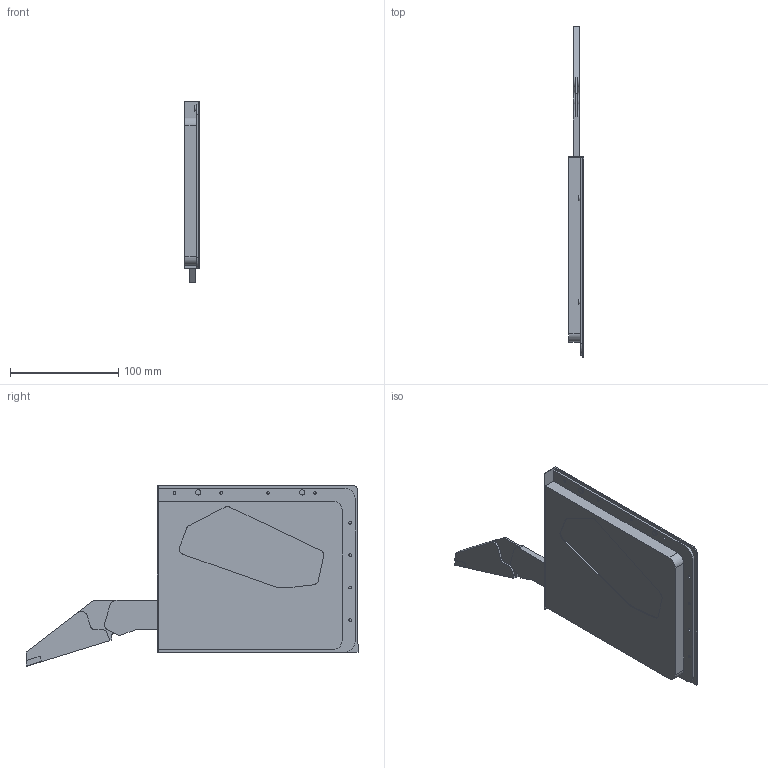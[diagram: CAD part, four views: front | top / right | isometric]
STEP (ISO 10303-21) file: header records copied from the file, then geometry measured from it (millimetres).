
FILE_DESCRIPTION (( 'STEP AP214' ), '1' );
FILE_NAME ('F151149040_Kinvaro T-Slim S, Set Alu, LF250-550, Soft-close, Ice, links, offen.step', '2020-02-11T10:41:48', ( '' ), ( '' ), 'SwSTEP 2.0', 'SolidWorks 2019', '' );
FILE_SCHEMA (( 'AUTOMOTIVE_DESIGN' ));
Length unit declared in the file: millimetre
Products named in the file (1): F151149040_Kinvaro T-Slim S, Set Alu, LF250-550, Soft-close, Ice, links, offen
Bounding box: 14.75 x 306.86 x 166.98 mm (x, y, z)
Volume: 351748.3 mm3; surface area: 89237.1 mm2
Topology: 1 solids, 4 shells, 162 faces, 417 edges, 278 vertices
Faces by surface type: plane 94, cylinder 68
Entity records: 4983 total; most frequent: DIRECTION 875, CARTESIAN_POINT 864, ORIENTED_EDGE 834, EDGE_CURVE 417, AXIS2_PLACEMENT_3D 297, VECTOR 281, LINE 281, VERTEX_POINT 278
